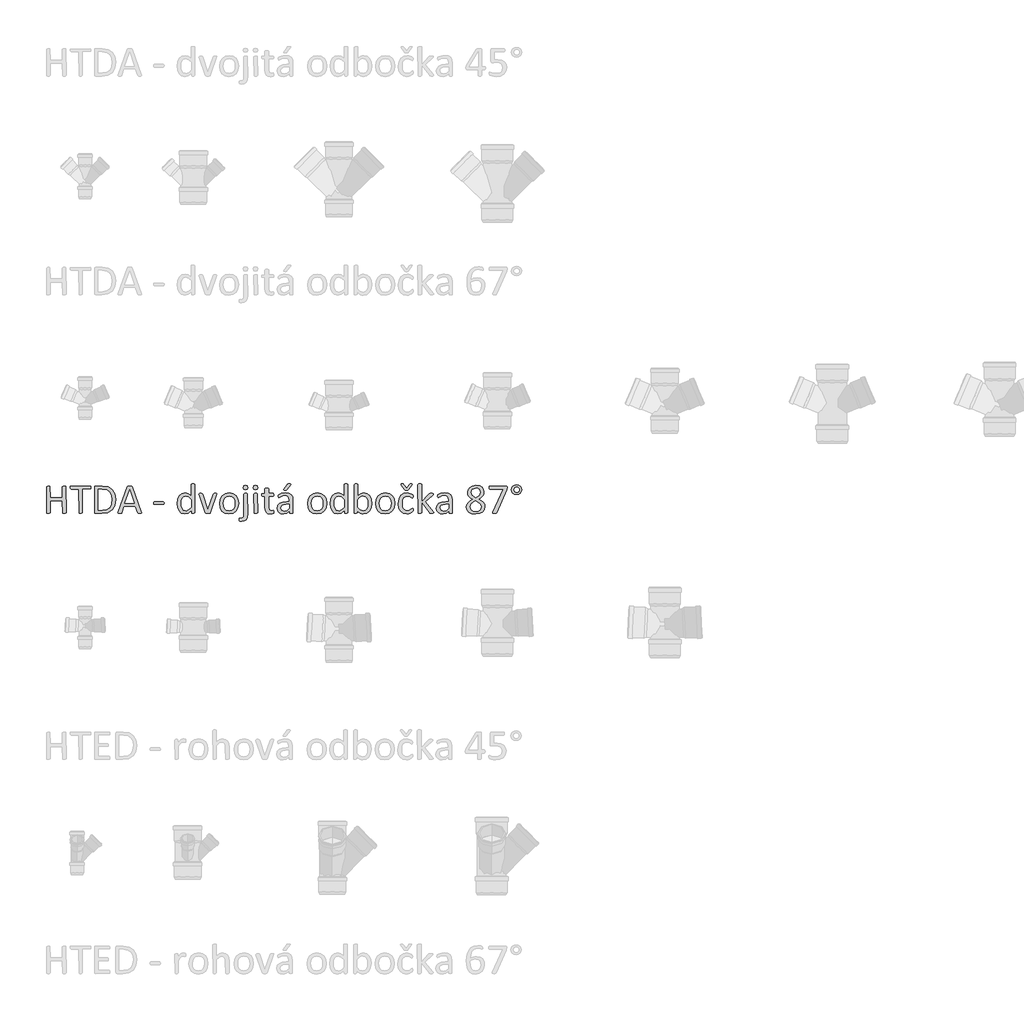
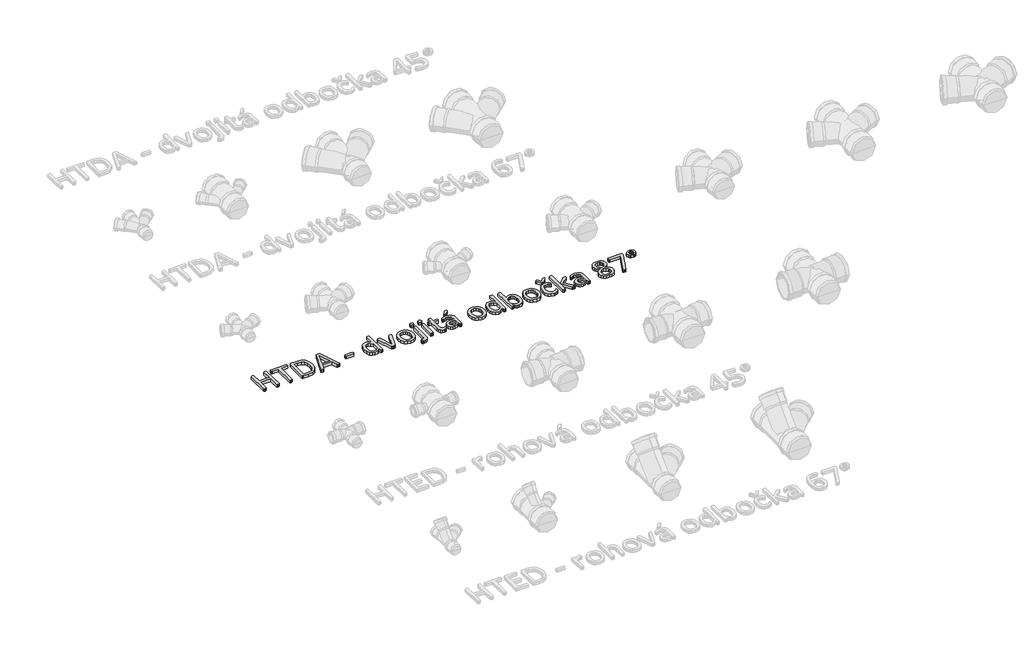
# One storey, part 16 of 26: 1 proxy.
"""IFC4 building model written with IfcOpenShell, lengths in millimetres."""

from ifc_helpers import new_model, si_unit, origin, origin_with_axes, place, context, project, spatial, polyline, outline, extrude, element, save

model = new_model("IFC4")

# Units and contexts
model_context = context("Model", 3, world=origin())
ifc_project = project(units=[si_unit("LENGTHUNIT", "METRE", prefix="MILLI")], contexts=[model_context])

# Site, building, storey
site = spatial("IfcSite", under=ifc_project)
building = spatial("IfcBuilding", under=site)
storey = spatial("IfcBuildingStorey", under=building, Name="Podlaží 1", Elevation=0.0)

# Proxy
placement = place(None, origin())
element("IfcBuildingElementProxy", 1, Name="120mm Arial", ObjectType="120mm Arial", at=placement, inside=storey, context=model_context, shape_type="SweptSolid", body=[
    extrude(outline(polyline([(-20465.0657483, 10008.0506997), (-20469.2817655, 10005.3184311), (-20473.1358927, 10005.0832026), (-20477.1166815, 10005.3184311), (-20479.5775327, 10005.8612659), (-20481.2784151, 10060.6694889), (-20534.5486061, 10060.6694889), (-20534.5486061, 10008.0145107), (-20538.7465288, 10005.3184311), (-20542.6549395, 10005.0832026), (-20546.5271613, 10005.3184311), (-20549.0603905, 10005.8793604), (-20550.7612729, 10122.5526591), (-20546.5271613, 10125.2849277), (-20542.6549395, 10125.5201562), (-20538.7465288, 10125.2849277), (-20536.2494886, 10124.7239984), (-20534.5486061, 10074.5660604), (-20481.2784151, 10074.5660604), (-20481.2784151, 10122.5526591), (-20477.1166815, 10125.2849277), (-20473.1358927, 10125.5201562), (-20469.2817655, 10125.2849277), (-20466.7666308, 10124.7239984), (-20465.0657483, 10008.0506997)])), origin_with_axes(), (0.0, 0.0, 1.0), 15.0),
    extrude(outline(polyline([(-20356.2092711, 10118.4633034), (-20356.390216, 10115.3329559), (-20356.9873343, 10113.1978056), (-20393.2667952, 10111.6235846), (-20393.2667952, 10008.0506997), (-20397.4647179, 10005.3184311), (-20401.3731287, 10005.0832026), (-20405.2453504, 10005.3184311), (-20407.7785796, 10005.8793604), (-20409.4794621, 10111.6235846), (-20443.3885442, 10111.6235846), (-20446.3017578, 10115.3329559), (-20446.5369862, 10118.4633034), (-20446.3017578, 10121.6660289), (-20445.686545, 10123.9097462), (-20359.3939021, 10125.5201562), (-20357.0054288, 10123.9097462), (-20356.390216, 10121.6660289), (-20356.2092711, 10118.4633034)])), origin_with_axes(), (0.0, 0.0, 1.0), 15.0),
    extrude(outline(polyline([(-20247.3527939, 10067.0749398), (-20251.3516771, 10039.7522536), (-20263.0407204, 10020.3911447), (-20281.8951833, 10008.9011409), (-20308.5121843, 10005.0832026), (-20334.0254212, 10005.0832026), (-20338.0966824, 10006.5307622), (-20339.9966043, 10011.5972206), (-20339.9966043, 10119.0061382), (-20338.0966824, 10124.0725966), (-20334.0254212, 10125.5201562), (-20306.7389239, 10125.5201562), (-20280.3028678, 10121.4669895), (-20262.1902791, 10109.8322297), (-20251.1164487, 10091.4482235), (-20247.3527939, 10067.0749398)]), holes=[polyline([(-20263.5654607, 10066.3511601), (-20266.0082174, 10084.3370873), (-20273.644094, 10098.7403047), (-20286.8168858, 10108.2218197), (-20307.3541367, 10111.6235846), (-20323.7839374, 10111.6235846), (-20323.7839374, 10018.9797742), (-20307.1731918, 10018.9797742), (-20287.5768545, 10021.8387043), (-20274.2593068, 10030.578345), (-20266.2434458, 10045.3434523), (-20263.5654607, 10066.3511601)])]), origin_with_axes(), (0.0, 0.0, 1.0), 15.0),
    extrude(outline(polyline([(-20134.5879059, 10011.3438976), (-20133.8098426, 10008.0506997), (-20134.4974334, 10006.1145888), (-20136.9582846, 10005.2641476), (-20141.5361917, 10005.0832026), (-20146.1502877, 10005.2279586), (-20148.7378004, 10005.6984154), (-20150.8367617, 10007.9783217), (-20161.1144344, 10037.5085363), (-20211.0190495, 10037.5085363), (-20220.8262653, 10008.3764006), (-20221.5862341, 10006.928841), (-20222.9252267, 10005.8793604), (-20225.4222669, 10005.2641476), (-20229.6563785, 10005.0832026), (-20234.0533406, 10005.3184311), (-20236.4599083, 10006.2050613), (-20237.1113101, 10008.1230777), (-20236.3151524, 10011.4162756), (-20196.0729972, 10122.2269582), (-20195.1139891, 10123.8735572), (-20193.3407286, 10124.8687544), (-20190.3732316, 10125.3754002), (-20185.7953245, 10125.5201562), (-20180.8736221, 10125.3754002), (-20177.7070856, 10124.8687544), (-20175.8614472, 10123.8373682), (-20174.830061, 10122.1545802), (-20134.5879059, 10011.3438976)]), holes=[polyline([(-20186.2295924, 10109.3074893), (-20207.0020718, 10049.0890126), (-20165.2761681, 10049.0890126), (-20186.2295924, 10109.3074893)])]), origin_with_axes(), (0.0, 0.0, 1.0), 15.0),
    extrude(outline(polyline([(-20034.2720299, 10050.2832492), (-20035.1224712, 10045.7234367), (-20037.6014169, 10044.4568221), (-20077.1921702, 10044.4568221), (-20079.7434939, 10045.7596256), (-20080.5939351, 10050.2832492), (-20079.7434939, 10054.7706838), (-20077.1921702, 10056.0372984), (-20037.6014169, 10056.0372984), (-20034.5072584, 10052.9974233), (-20034.2720299, 10050.2832492)])), origin_with_axes(), (0.0, 0.0, 1.0), 15.0),
    extrude(outline(polyline([(-19900.2642058, 10007.9783217), (-19903.6478762, 10005.2641476), (-19906.9591686, 10005.0832026), (-19910.3971225, 10005.2641476), (-19912.6408398, 10005.7346044), (-19914.3055333, 10018.0388605), (-19927.7497425, 10006.8021796), (-19943.0034011, 10002.7671074), (-19958.4199102, 10006.3679117), (-19968.7518664, 10016.1027496), (-19974.5421045, 10030.542156), (-19976.3696484, 10048.0033429), (-19974.0897422, 10067.6358691), (-19967.3585903, 10082.5819214), (-19956.3209488, 10092.0815308), (-19941.0853847, 10095.4109178), (-19927.9306874, 10092.1720033), (-19916.1511717, 10082.6723938), (-19916.1511717, 10131.7808512), (-19914.4864782, 10133.9883794), (-19911.989438, 10134.5493088), (-19908.1534052, 10134.7845372), (-19904.1364275, 10134.5493088), (-19901.6936708, 10133.9883794), (-19900.3727727, 10133.0655602), (-19900.2642058, 10007.9783217)]), holes=[polyline([(-19916.1511717, 10066.1702151), (-19927.767837, 10077.587841), (-19939.4568802, 10081.5143462), (-19949.0469622, 10078.7639831), (-19955.4524131, 10071.5080909), (-19959.035123, 10061.3027962), (-19960.1569816, 10049.7404144), (-19959.2160679, 10037.5085363), (-19955.9409645, 10026.9051627), (-19949.7526474, 10019.4683255), (-19940.072093, 10016.6636789), (-19934.3904219, 10017.4779312), (-19928.7811286, 10020.1740108), (-19922.7918511, 10025.0595243), (-19916.1511717, 10032.4782669), (-19916.1511717, 10066.1702151)])]), origin_with_axes(), (0.0, 0.0, 1.0), 15.0),
    extrude(outline(polyline([(-19803.6305594, 10091.502507), (-19832.1203405, 10008.3764006), (-19833.0974432, 10006.7298016), (-19834.9068926, 10005.7346044), (-19837.9648622, 10005.2279586), (-19842.6151472, 10005.0832026), (-19847.2292432, 10005.2641476), (-19850.2510237, 10005.8069824), (-19852.0604732, 10006.8202741), (-19853.0737648, 10008.3764006), (-19881.4459318, 10086.6169936), (-19882.0430501, 10088.5169155), (-19878.4422457, 10093.00435), (-19874.8595359, 10093.0948225), (-19870.5530463, 10092.9500666), (-19868.056006, 10092.4434207), (-19865.9570447, 10090.1635145), (-19842.3980132, 10022.2729721), (-19818.4770919, 10090.1635145), (-19816.504792, 10092.4434207), (-19814.0801298, 10092.9500666), (-19810.0450576, 10093.0948225), (-19806.5166312, 10093.00435), (-19803.6305594, 10091.502507)])), origin_with_axes(), (0.0, 0.0, 1.0), 15.0),
    extrude(outline(polyline([(-19707.7025983, 10049.9937373), (-19710.3805834, 10031.0126129), (-19718.3964444, 10016.0665606), (-19731.7501811, 10006.2774393), (-19750.3332267, 10002.7671074), (-19768.2467759, 10005.8612659), (-19780.9852999, 10014.8542295), (-19788.5849874, 10029.1850689), (-19791.0820276, 10048.2928548), (-19788.4402315, 10067.2739793), (-19780.478654, 10082.201937), (-19767.1792008, 10091.9367749), (-19748.5599662, 10095.4109178), (-19730.6283225, 10092.3167593), (-19717.8897985, 10083.3237956), (-19710.253922, 10068.9929562), (-19707.7025983, 10049.9937373)]), holes=[polyline([(-19723.9152651, 10048.9080676), (-19725.1637852, 10061.4837411), (-19729.2712354, 10071.8699808), (-19736.9975844, 10078.9268335), (-19749.175179, 10081.5143462), (-19760.7375608, 10079.1439675), (-19768.6991383, 10072.4490046), (-19773.3494233, 10062.2075209), (-19774.8693608, 10049.2699575), (-19773.6208407, 10036.6219061), (-19769.4772015, 10026.2718554), (-19761.696569, 10019.2511916), (-19749.5370689, 10016.6636789), (-19738.0108761, 10019.0340577), (-19729.9950152, 10025.6747371), (-19725.3809191, 10035.8800318), (-19723.9152651, 10048.9080676)])]), origin_with_axes(), (0.0, 0.0, 1.0), 15.0),
    extrude(outline(polyline([(-19668.3289789, 10003.7080211), (-19669.7946329, 9988.327701), (-19674.3725399, 9978.4481071), (-19682.3703064, 9972.3864516), (-19694.1679166, 9970.3417737), (-19699.4876979, 9970.7398526), (-19702.8532738, 9971.6264828), (-19704.4636838, 9972.7483415), (-19705.0969911, 9974.23209), (-19705.3322195, 9975.9691614), (-19705.386503, 9978.1224062), (-19705.2417471, 9981.1803758), (-19704.7531957, 9983.2612426), (-19700.5733676, 9984.4735737), (-19696.6287678, 9984.2383453), (-19691.1099471, 9985.1611645), (-19687.3643868, 9988.182945), (-19685.2292365, 9993.6293878), (-19684.5416457, 10003.7803991), (-19684.5416457, 10090.2358924), (-19682.8226687, 10092.3529483), (-19680.343723, 10092.9138776), (-19676.4353123, 10093.0948225), (-19672.5269015, 10092.9138776), (-19670.0479558, 10092.3529483), (-19668.7270577, 10091.430129), (-19668.3289789, 10003.7080211)])), origin_with_axes(), (0.0, 0.0, 1.0), 15.0),
    extrude(outline(polyline([(-19668.3289789, 10118.6804373), (-19670.3374677, 10111.2797892), (-19677.7381159, 10109.3074893), (-19684.9397246, 10111.2255057), (-19686.8577409, 10118.4633034), (-19684.9035356, 10125.8639515), (-19677.5571709, 10127.8362514), (-19670.2469952, 10125.918235), (-19668.3289789, 10118.6804373)])), origin_with_axes(), (0.0, 0.0, 1.0), 15.0),
    extrude(outline(polyline([(-19624.3231689, 10007.9059437), (-19628.4487136, 10005.2641476), (-19632.4656913, 10005.0832026), (-19636.4102911, 10005.2641476), (-19638.9073313, 10005.8069824), (-19640.5358357, 10090.2720814), (-19636.4102911, 10092.9138776), (-19632.4656913, 10093.0948225), (-19628.4487136, 10092.9138776), (-19626.0059569, 10092.3710427), (-19624.3231689, 10007.9059437)])), origin_with_axes(), (0.0, 0.0, 1.0), 15.0),
    extrude(outline(polyline([(-19624.3231689, 10118.6804373), (-19626.3135633, 10111.2797892), (-19633.6961169, 10109.3074893), (-19640.8977256, 10111.2255057), (-19642.851931, 10118.4633034), (-19640.8615366, 10125.8639515), (-19633.478983, 10127.8362514), (-19626.2773743, 10125.918235), (-19624.3231689, 10118.6804373)])), origin_with_axes(), (0.0, 0.0, 1.0), 15.0),
    extrude(outline(polyline([(-19552.5242159, 10013.40667), (-19552.8861057, 10008.8830464), (-19553.9898699, 10006.4221952), (-19556.1973982, 10004.9384467), (-19559.5448796, 10003.7984935), (-19563.5437628, 10003.0566193), (-19567.75978, 10002.7671074), (-19578.779327, 10004.5222733), (-19586.2885421, 10009.8239601), (-19590.5588427, 10018.8169237), (-19591.8978353, 10031.6821091), (-19591.8978353, 10081.5143462), (-19602.8992878, 10081.5143462), (-19605.0163436, 10082.8714333), (-19605.7944068, 10087.2683954), (-19605.5772729, 10089.964475), (-19605.0163436, 10091.7920189), (-19591.8978353, 10093.0948225), (-19591.8978353, 10113.2520891), (-19590.2693308, 10115.4596174), (-19587.7722906, 10116.0748302), (-19583.8276909, 10116.2557751), (-19579.8107131, 10116.0748302), (-19577.3679564, 10115.4596174), (-19576.0832473, 10114.4644202), (-19575.6851685, 10093.0948225), (-19555.4193349, 10093.0948225), (-19552.7051608, 10089.964475), (-19552.5242159, 10087.2683954), (-19553.3203736, 10082.8714333), (-19555.4193349, 10081.5143462), (-19575.6851685, 10081.5143462), (-19575.6851685, 10034.3239053), (-19573.2786007, 10021.133019), (-19564.647527, 10016.6636789), (-19561.0467226, 10017.0798523), (-19558.242076, 10017.948388), (-19556.1250202, 10018.8350182), (-19554.5507992, 10019.2692861), (-19552.7051608, 10016.337978), (-19552.5242159, 10013.40667)])), origin_with_axes(), (0.0, 0.0, 1.0), 15.0),
    extrude(outline(polyline([(-19494.6580233, 10131.4913392), (-19493.3190308, 10133.0836547), (-19491.4552979, 10134.0607574), (-19488.7230292, 10134.6035923), (-19484.8146185, 10134.7845372), (-19480.4719399, 10134.4769308), (-19478.1558446, 10133.5903006), (-19478.4091675, 10130.6589925), (-19495.707504, 10109.8503242), (-19497.1007801, 10108.4208591), (-19498.5302451, 10107.5704179), (-19500.6292064, 10107.1180555), (-19503.8500264, 10106.9913941), (-19507.1794133, 10107.2628115), (-19508.9164848, 10107.9865913), (-19508.5184059, 10110.8274268), (-19494.6580233, 10131.4913392)])), origin_with_axes(), (0.0, 0.0, 1.0), 15.0),
    extrude(outline(polyline([(-19469.1447865, 10007.8697547), (-19469.9409442, 10006.1869668), (-19472.1122836, 10005.35462), (-19476.1654503, 10005.0832026), (-19480.2729004, 10005.35462), (-19482.4985232, 10006.1869668), (-19483.186114, 10007.8697547), (-19483.186114, 10016.1932221), (-19495.3818031, 10006.5669512), (-19509.6402646, 10002.7671074), (-19521.6007252, 10004.4860843), (-19530.7022558, 10009.4620702), (-19536.5467775, 10017.4598367), (-19538.6276443, 10028.2441552), (-19535.7506197, 10040.5122223), (-19527.4995304, 10049.1613906), (-19514.3448331, 10054.3183214), (-19496.8293627, 10056.0372984), (-19485.3574533, 10056.0372984), (-19485.3574533, 10062.9493951), (-19486.370745, 10071.9966423), (-19489.627754, 10078.5468492), (-19495.4360866, 10082.4914489), (-19504.2119163, 10083.8304415), (-19514.2543606, 10082.3828819), (-19522.0349931, 10079.198251), (-19527.6261918, 10076.01362), (-19530.9555788, 10074.5660604), (-19533.8145088, 10078.0944868), (-19533.9954538, 10080.7543775), (-19533.6697529, 10084.5542212), (-19532.0774374, 10087.2141119), (-19527.7347588, 10089.928286), (-19520.641717, 10092.6062712), (-19511.8658874, 10094.61476), (-19502.2577109, 10095.4109178), (-19486.8773908, 10093.3662399), (-19476.6178126, 10087.3950568), (-19470.9180469, 10077.6421245), (-19469.1447865, 10064.0350648), (-19469.1447865, 10007.8697547)]), holes=[polyline([(-19485.3574533, 10044.4568221), (-19498.2407332, 10044.4568221), (-19508.9888628, 10043.3892469), (-19516.5704558, 10040.2408049), (-19521.0036069, 10035.2467245), (-19522.4149775, 10028.5336671), (-19518.3618108, 10018.1836164), (-19506.9984684, 10014.3475837), (-19495.9970159, 10017.4055532), (-19485.3574533, 10026.7604067), (-19485.3574533, 10044.4568221)])]), origin_with_axes(), (0.0, 0.0, 1.0), 15.0),
    extrude(outline(polyline([(-19320.9146899, 10049.9937373), (-19323.592675, 10031.0126129), (-19331.6085359, 10016.0665606), (-19344.9622727, 10006.2774393), (-19363.5453182, 10002.7671074), (-19381.4588675, 10005.8612659), (-19394.1973914, 10014.8542295), (-19401.797079, 10029.1850689), (-19404.2941192, 10048.2928548), (-19401.6523231, 10067.2739793), (-19393.6907456, 10082.201937), (-19380.3912924, 10091.9367749), (-19361.7720578, 10095.4109178), (-19343.840414, 10092.3167593), (-19331.1018901, 10083.3237956), (-19323.4660135, 10068.9929562), (-19320.9146899, 10049.9937373)]), holes=[polyline([(-19337.1273567, 10048.9080676), (-19338.3758768, 10061.4837411), (-19342.483327, 10071.8699808), (-19350.209676, 10078.9268335), (-19362.3872706, 10081.5143462), (-19373.9496524, 10079.1439675), (-19381.9112299, 10072.4490046), (-19386.5615149, 10062.2075209), (-19388.0814524, 10049.2699575), (-19386.8329323, 10036.6219061), (-19382.6892931, 10026.2718554), (-19374.9086606, 10019.2511916), (-19362.7491605, 10016.6636789), (-19351.2229677, 10019.0340577), (-19343.2071067, 10025.6747371), (-19338.5930107, 10035.8800318), (-19337.1273567, 10048.9080676)])]), origin_with_axes(), (0.0, 0.0, 1.0), 15.0),
    extrude(outline(polyline([(-19228.5965804, 10007.9783217), (-19231.9802508, 10005.2641476), (-19235.2915432, 10005.0832026), (-19238.7294971, 10005.2641476), (-19240.9732144, 10005.7346044), (-19242.6379079, 10018.0388605), (-19256.0821171, 10006.8021796), (-19271.3357757, 10002.7671074), (-19286.7522848, 10006.3679117), (-19297.084241, 10016.1027496), (-19302.8744791, 10030.542156), (-19304.702023, 10048.0033429), (-19302.4221168, 10067.6358691), (-19295.6909649, 10082.5819214), (-19284.6533234, 10092.0815308), (-19269.4177593, 10095.4109178), (-19256.263062, 10092.1720033), (-19244.4835463, 10082.6723938), (-19244.4835463, 10131.7808512), (-19242.8188528, 10133.9883794), (-19240.3218126, 10134.5493088), (-19236.4857798, 10134.7845372), (-19232.4688021, 10134.5493088), (-19230.0260454, 10133.9883794), (-19228.7051473, 10133.0655602), (-19228.5965804, 10007.9783217)]), holes=[polyline([(-19244.4835463, 10066.1702151), (-19256.1002116, 10077.587841), (-19267.7892548, 10081.5143462), (-19277.3793368, 10078.7639831), (-19283.7847877, 10071.5080909), (-19287.3674976, 10061.3027962), (-19288.4893562, 10049.7404144), (-19287.5484425, 10037.5085363), (-19284.2733391, 10026.9051627), (-19278.085022, 10019.4683255), (-19268.4044676, 10016.6636789), (-19262.7227965, 10017.4779312), (-19257.1135032, 10020.1740108), (-19251.1242257, 10025.0595243), (-19244.4835463, 10032.4782669), (-19244.4835463, 10066.1702151)])]), origin_with_axes(), (0.0, 0.0, 1.0), 15.0),
    extrude(outline(polyline([(-19124.0465928, 10050.1746822), (-19126.362688, 10030.4516835), (-19133.1843123, 10015.5056313), (-19144.2581428, 10006.0422108), (-19159.2946675, 10002.7671074), (-19166.5324652, 10003.5632651), (-19173.0464831, 10006.1507778), (-19179.4157451, 10010.6563069), (-19186.1468969, 10017.2065138), (-19186.1468969, 10007.7611878), (-19190.0372132, 10005.2641476), (-19193.4208836, 10005.0832026), (-19196.7502705, 10005.2641476), (-19199.0120823, 10005.7707934), (-19200.4777363, 10131.8170401), (-19196.3521917, 10134.6035923), (-19192.4075919, 10134.7845372), (-19188.3906142, 10134.6035923), (-19185.9478575, 10134.0426629), (-19184.6631484, 10133.1017492), (-19184.2650695, 10081.5505352), (-19177.2263113, 10088.0102696), (-19170.5494429, 10092.2805703), (-19164.0173305, 10094.6690435), (-19157.1233282, 10095.4109178), (-19141.9058586, 10091.7558299), (-19131.6281858, 10081.9667086), (-19125.8560422, 10067.5815857), (-19124.0465928, 10050.1746822)]), holes=[polyline([(-19140.2592596, 10048.4014218), (-19141.2001733, 10060.7237724), (-19144.4933712, 10071.3090515), (-19150.6997827, 10078.7096996), (-19160.3441482, 10081.5143462), (-19165.9896304, 10080.700094), (-19171.653207, 10077.9859198), (-19177.6424846, 10073.1185009), (-19184.2650695, 10065.6273803), (-19184.2650695, 10032.00781), (-19172.5760263, 10020.5901842), (-19160.959361, 10016.6636789), (-19151.4235625, 10019.4321366), (-19144.9819226, 10026.7423122), (-19141.3811182, 10036.947607), (-19140.2592596, 10048.4014218)])]), origin_with_axes(), (0.0, 0.0, 1.0), 15.0),
    extrude(outline(polyline([(-19022.1384013, 10049.9937373), (-19024.8163865, 10031.0126129), (-19032.8322474, 10016.0665606), (-19046.1859841, 10006.2774393), (-19064.7690297, 10002.7671074), (-19082.682579, 10005.8612659), (-19095.4211029, 10014.8542295), (-19103.0207905, 10029.1850689), (-19105.5178307, 10048.2928548), (-19102.8760345, 10067.2739793), (-19094.9144571, 10082.201937), (-19081.6150038, 10091.9367749), (-19062.9957693, 10095.4109178), (-19045.0641255, 10092.3167593), (-19032.3256016, 10083.3237956), (-19024.689725, 10068.9929562), (-19022.1384013, 10049.9937373)]), holes=[polyline([(-19038.3510681, 10048.9080676), (-19039.5995882, 10061.4837411), (-19043.7070384, 10071.8699808), (-19051.4333875, 10078.9268335), (-19063.6109821, 10081.5143462), (-19075.1733639, 10079.1439675), (-19083.1349413, 10072.4490046), (-19087.7852263, 10062.2075209), (-19089.3051639, 10049.2699575), (-19088.0566438, 10036.6219061), (-19083.9130046, 10026.2718554), (-19076.1323721, 10019.2511916), (-19063.972872, 10016.6636789), (-19052.4466791, 10019.0340577), (-19044.4308182, 10025.6747371), (-19039.8167222, 10035.8800318), (-19038.3510681, 10048.9080676)])]), origin_with_axes(), (0.0, 0.0, 1.0), 15.0),
    extrude(outline(polyline([(-18941.0750672, 10021.7301373), (-18941.1655397, 10019.1969081), (-18941.4912406, 10017.3874587), (-18943.4816349, 10013.7504654), (-18947.3719512, 10010.222039), (-18953.5421737, 10006.4764787), (-18960.9790109, 10003.7984935), (-18969.3024782, 10002.7671074), (-18985.0084992, 10005.7707934), (-18996.462314, 10014.5466231), (-19003.5010723, 10028.6965176), (-19005.9257345, 10048.0395319), (-19002.9582374, 10069.4815076), (-18994.8338095, 10084.1561424), (-18982.6924039, 10092.6424602), (-18967.5654068, 10095.4109178), (-18959.9295302, 10094.5966655), (-18953.1260004, 10092.4615152), (-18947.5890851, 10089.4216402), (-18944.0787533, 10086.4722376), (-18942.5769102, 10084.5361267), (-18941.8893195, 10082.9980947), (-18941.5274296, 10081.0981728), (-18941.4369571, 10078.4382822), (-18942.2512093, 10073.6251467), (-18944.2235092, 10072.2499652), (-18947.3538567, 10073.6975247), (-18951.8231968, 10076.8821557), (-18958.3914982, 10080.0667867), (-18967.4568398, 10081.5143462), (-18976.9790674, 10079.4153849), (-18983.977113, 10073.1185009), (-18988.279079, 10062.8227337), (-18989.7130677, 10048.7271227), (-18988.2293192, 10034.7219842), (-18983.8504516, 10024.6614454), (-18976.7393153, 10018.6359788), (-18967.0949499, 10016.6636789), (-18958.0657973, 10018.4912229), (-18951.3346454, 10022.5082006), (-18946.5396045, 10026.4708948), (-18943.4997294, 10028.2441552), (-18941.2017287, 10024.6795399), (-18941.0750672, 10021.7301373)])), origin_with_axes(), (0.0, 0.0, 1.0), 15.0),
    extrude(outline(polyline([(-18958.4457817, 10132.1065521), (-18957.287734, 10133.3912611), (-18953.9945361, 10134.6578757), (-18951.099417, 10134.7845372), (-18947.3176677, 10134.4769308), (-18945.5082183, 10133.5903006), (-18946.8653054, 10129.7904568), (-18961.8113576, 10109.3074893), (-18962.9874997, 10108.1494417), (-18964.5798152, 10107.4799454), (-18966.8959105, 10107.1180555), (-18970.2433919, 10106.9913941), (-18973.3918339, 10107.1180555), (-18975.6174567, 10107.5161344), (-18977.1554887, 10108.2399142), (-18993.1872106, 10129.7904568), (-18994.5804866, 10132.0160796), (-18992.6805647, 10134.4769308), (-18988.9169099, 10134.7845372), (-18985.8046569, 10134.6578757), (-18983.9228295, 10134.2055134), (-18981.6067343, 10132.1065521), (-18970.026258, 10115.9300742), (-18958.4457817, 10132.1065521)])), origin_with_axes(), (0.0, 0.0, 1.0), 15.0),
    extrude(outline(polyline([(-18850.7473521, 10008.0145107), (-18854.8186133, 10005.2641476), (-18858.8174965, 10005.0832026), (-18862.9430412, 10005.2279586), (-18865.6934043, 10005.6803209), (-18867.5028537, 10006.5850457), (-18868.7694683, 10008.0145107), (-18904.0175431, 10053.5764471), (-18904.0175431, 10007.9059437), (-18908.1430877, 10005.2641476), (-18912.1600655, 10005.0832026), (-18916.1046652, 10005.2641476), (-18918.6017054, 10005.8250769), (-18920.2302099, 10131.8170401), (-18916.1046652, 10134.6035923), (-18912.1600655, 10134.7845372), (-18908.1430877, 10134.6035923), (-18905.700331, 10134.0426629), (-18904.4156219, 10133.1017492), (-18904.0175431, 10055.6754085), (-18871.8093433, 10089.9101915), (-18870.1989334, 10091.4120346), (-18868.17235, 10092.4072317), (-18865.3857979, 10092.9500666), (-18861.4954816, 10093.0948225), (-18857.5146929, 10092.9500666), (-18854.9271802, 10092.4977042), (-18853.4977152, 10091.683452), (-18853.6967546, 10088.1550256), (-18855.8138105, 10085.6037019), (-18887.8048762, 10055.7839754), (-18853.0272584, 10012.3210003), (-18851.2720924, 10009.8058656), (-18850.7473521, 10008.0145107)])), origin_with_axes(), (0.0, 0.0, 1.0), 15.0),
    extrude(outline(polyline([(-18769.684018, 10007.8697547), (-18770.4801757, 10006.1869668), (-18772.651515, 10005.35462), (-18776.7046817, 10005.0832026), (-18780.8121319, 10005.35462), (-18783.0377547, 10006.1869668), (-18783.7253455, 10007.8697547), (-18783.7253455, 10016.1932221), (-18795.9210346, 10006.5669512), (-18810.179496, 10002.7671074), (-18822.1399567, 10004.4860843), (-18831.2414873, 10009.4620702), (-18837.0860089, 10017.4598367), (-18839.1668758, 10028.2441552), (-18836.2898512, 10040.5122223), (-18828.0387618, 10049.1613906), (-18814.8840645, 10054.3183214), (-18797.3685941, 10056.0372984), (-18785.8966848, 10056.0372984), (-18785.8966848, 10062.9493951), (-18786.9099765, 10071.9966423), (-18790.1669854, 10078.5468492), (-18795.9753181, 10082.4914489), (-18804.7511478, 10083.8304415), (-18814.7935921, 10082.3828819), (-18822.5742246, 10079.198251), (-18828.1654233, 10076.01362), (-18831.4948102, 10074.5660604), (-18834.3537403, 10078.0944868), (-18834.5346853, 10080.7543775), (-18834.2089844, 10084.5542212), (-18832.6166689, 10087.2141119), (-18828.2739903, 10089.928286), (-18821.1809485, 10092.6062712), (-18812.4051188, 10094.61476), (-18802.7969424, 10095.4109178), (-18787.4166223, 10093.3662399), (-18777.1570441, 10087.3950568), (-18771.4572784, 10077.6421245), (-18769.684018, 10064.0350648), (-18769.684018, 10007.8697547)]), holes=[polyline([(-18785.8966848, 10044.4568221), (-18798.7799647, 10044.4568221), (-18809.5280942, 10043.3892469), (-18817.1096873, 10040.2408049), (-18821.5428384, 10035.2467245), (-18822.954209, 10028.5336671), (-18818.9010423, 10018.1836164), (-18807.5376999, 10014.3475837), (-18796.5362474, 10017.4055532), (-18785.8966848, 10026.7604067), (-18785.8966848, 10044.4568221)])]), origin_with_axes(), (0.0, 0.0, 1.0), 15.0),
    extrude(outline(polyline([(-18626.0861119, 10035.7352758), (-18628.872664, 10021.6939483), (-18636.9066194, 10011.3077086), (-18649.8803718, 10004.9203522), (-18667.5586926, 10002.7671074), (-18684.1875328, 10004.7394072), (-18696.6365448, 10010.5658344), (-18704.4533663, 10020.0473494), (-18707.149446, 10032.9125347), (-18705.2676186, 10043.4254359), (-18699.8754593, 10052.2555491), (-18691.226291, 10059.8190476), (-18679.6096258, 10066.532105), (-18689.3625581, 10072.6661385), (-18696.5279779, 10079.7048968), (-18700.9973179, 10087.8293247), (-18702.5172554, 10097.2203672), (-18700.2735382, 10109.1989224), (-18693.4700083, 10118.9156658), (-18681.8714375, 10125.4477782), (-18665.4597313, 10127.8362514), (-18649.8803718, 10125.6287231), (-18639.0417697, 10119.621351), (-18632.7448857, 10110.6464819), (-18630.7183024, 10099.5726514), (-18632.2382399, 10090.3806484), (-18636.6894855, 10082.0209921), (-18643.9091887, 10074.6384384), (-18653.69831, 10068.1967985), (-18641.9006998, 10061.4656466), (-18633.2334371, 10053.9926205), (-18627.9136558, 10045.5424917), (-18626.0861119, 10035.7352758)]), holes=[polyline([(-18646.9309692, 10098.6317377), (-18648.2337728, 10105.9600079), (-18652.0336166, 10111.5512066), (-18658.2400281, 10115.0615385), (-18666.6901569, 10116.2557751), (-18681.3466972, 10111.5331121), (-18686.3045886, 10098.6317377), (-18685.0922575, 10091.683452), (-18681.3286027, 10085.5675129), (-18674.8869628, 10079.9220307), (-18665.6406762, 10074.2041706), (-18651.7621992, 10085.2599065), (-18646.9309692, 10098.6317377)]), polyline([(-18642.2987787, 10033.4553696), (-18643.8729997, 10041.453136), (-18648.6499461, 10048.1661934), (-18656.6296181, 10054.2278489), (-18667.7396375, 10060.307599), (-18677.9811213, 10054.3545104), (-18685.218919, 10048.2023824), (-18689.4892196, 10041.5436085), (-18690.9367791, 10033.8172595), (-18689.3942235, 10025.5706937), (-18684.7665566, 10019.4321366), (-18677.0718729, 10015.6187219), (-18666.328267, 10014.3475837), (-18655.9058383, 10015.6322928), (-18648.3785287, 10019.48642), (-18643.8187162, 10025.5480756), (-18642.2987787, 10033.4553696)])]), origin_with_axes(), (0.0, 0.0, 1.0), 15.0),
    extrude(outline(polyline([(-18528.8101109, 10118.7166263), (-18528.9548669, 10115.7129403), (-18529.3348513, 10113.1254276), (-18529.9862531, 10110.7369544), (-18530.9452613, 10108.2941977), (-18574.4444254, 10008.7021015), (-18575.602473, 10006.8926521), (-18577.3757334, 10005.7888879), (-18580.1260965, 10005.2279586), (-18584.2154522, 10005.0832026), (-18589.1733437, 10005.35462), (-18591.7427618, 10006.2412503), (-18592.4484471, 10007.7249988), (-18591.7789508, 10009.8239601), (-18546.0722584, 10111.6235846), (-18604.0108289, 10111.6235846), (-18606.6707196, 10113.469223), (-18607.5573498, 10118.6080594), (-18607.3221214, 10121.6660289), (-18606.6164361, 10123.8192737), (-18605.4945774, 10125.1039828), (-18533.6594354, 10125.5201562), (-18531.3795291, 10125.2487387), (-18529.8776861, 10124.1449746), (-18529.0815284, 10122.0279188), (-18528.8101109, 10118.7166263)])), origin_with_axes(), (0.0, 0.0, 1.0), 15.0),
    extrude(outline(polyline([(-18463.9594437, 10109.6693792), (-18465.7146096, 10101.4001954), (-18470.6544065, 10094.61476), (-18478.1455271, 10090.073042), (-18487.4822861, 10088.462632), (-18496.6742892, 10089.9463805), (-18503.8397089, 10094.1262087), (-18508.5804664, 10100.5859431), (-18510.2813489, 10108.9455995), (-18508.4718994, 10117.4500117), (-18503.4959135, 10124.1449746), (-18496.0590764, 10128.5419367), (-18486.7585064, 10130.1523467), (-18477.6207868, 10128.6324092), (-18470.4010836, 10124.452581), (-18465.6603261, 10118.0290355), (-18463.9594437, 10109.6693792)]), holes=[polyline([(-18475.53992, 10109.3436783), (-18476.4084557, 10113.9396799), (-18478.8331179, 10117.6128622), (-18482.5424892, 10120.0194299), (-18487.2289632, 10120.8879656), (-18491.7525868, 10120.0194299), (-18495.4076746, 10117.6128622), (-18497.8323368, 10113.9939633), (-18498.7008726, 10109.5246233), (-18497.8323368, 10104.7114878), (-18495.3533911, 10101.0021165), (-18491.5535473, 10098.5955488), (-18486.8308843, 10097.727013), (-18482.3977333, 10098.6317377), (-18478.7969289, 10101.1287779), (-18476.4084557, 10104.8019603), (-18475.53992, 10109.3436783)])]), origin_with_axes(), (0.0, 0.0, 1.0), 15.0),
])

save(model, "model.ifc")
